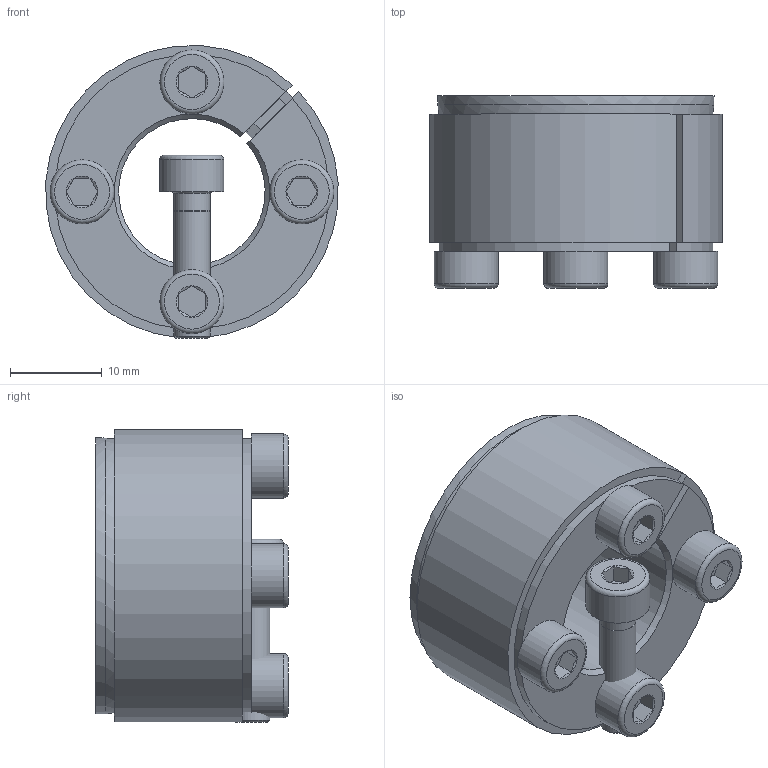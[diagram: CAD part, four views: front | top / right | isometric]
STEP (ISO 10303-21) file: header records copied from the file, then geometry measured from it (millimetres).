
FILE_DESCRIPTION( ( 'Unknown' ), '1' );
FILE_NAME( 'C:/Dokumente und Einstellungen/Sven/Desktop/homepage/cad - homepage/KBS52/KBS 52 - 16 x 32.stp', 'Unknown', ( 'Unknown' ), ( 'Unknown' ), 'XStep 1.0', 'Unknown', ' ' );
FILE_SCHEMA( ( 'automotive_design' ) );
Length unit declared in the file: millimetre
Products named in the file (3): Assem1; KBS 52 - 16 x 32; ISO EN DIN 4762 M4x16
Bounding box: 31.92 x 21 x 31.97 mm (x, y, z)
Volume: 19605.5 mm3; surface area: 11176.2 mm2
Topology: 7 solids, 7 shells, 173 faces, 349 edges, 208 vertices
Faces by surface type: plane 86, cone 41, cylinder 36, torus 10
Full cylindrical faces by diameter (mm): 3.5 x5, 4 x18, 7 x5, 30.175 x2
Entity records: 1549 total; most frequent: CARTESIAN_POINT 251, DIRECTION 231, ORIENTED_EDGE 180, AXIS2_PLACEMENT_3D 94, EDGE_CURVE 90, EDGE_LOOP 76, VERTEX_POINT 62, FACE_OUTER_BOUND 60
